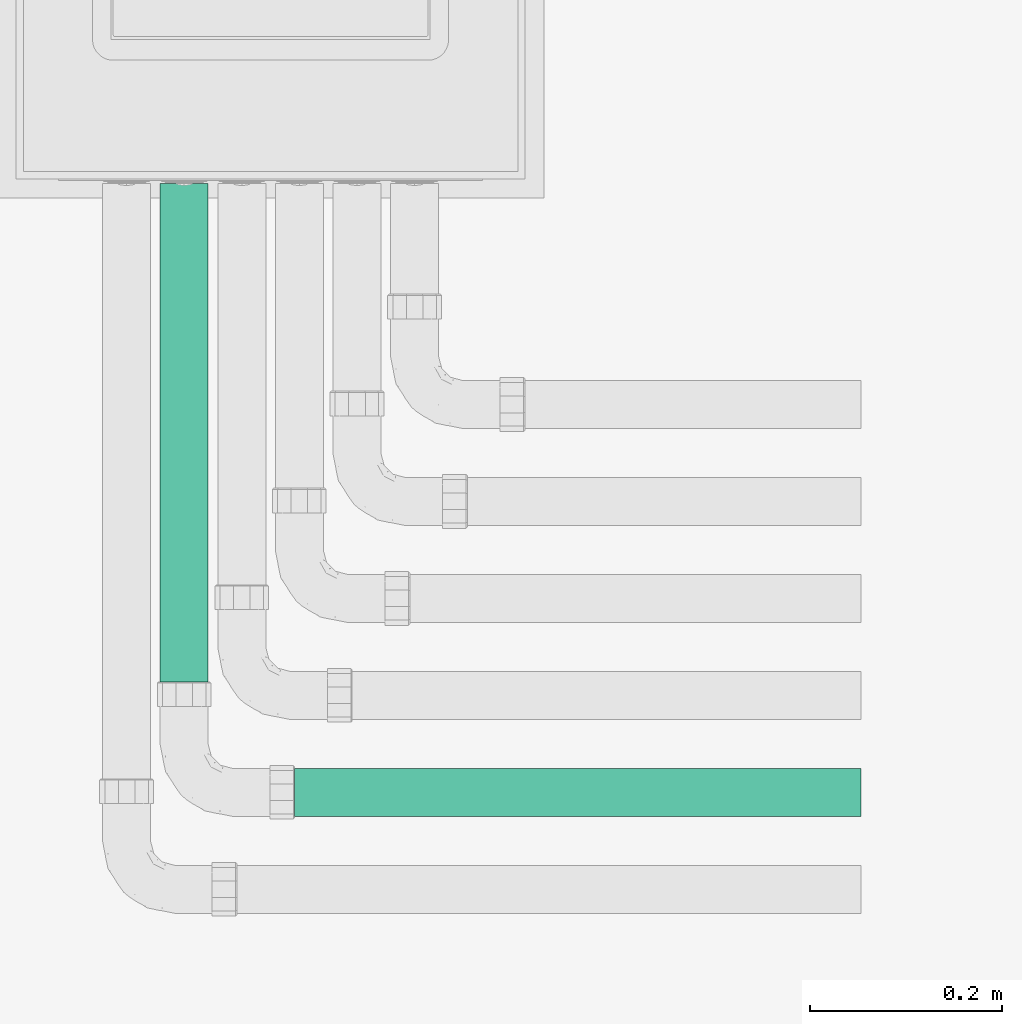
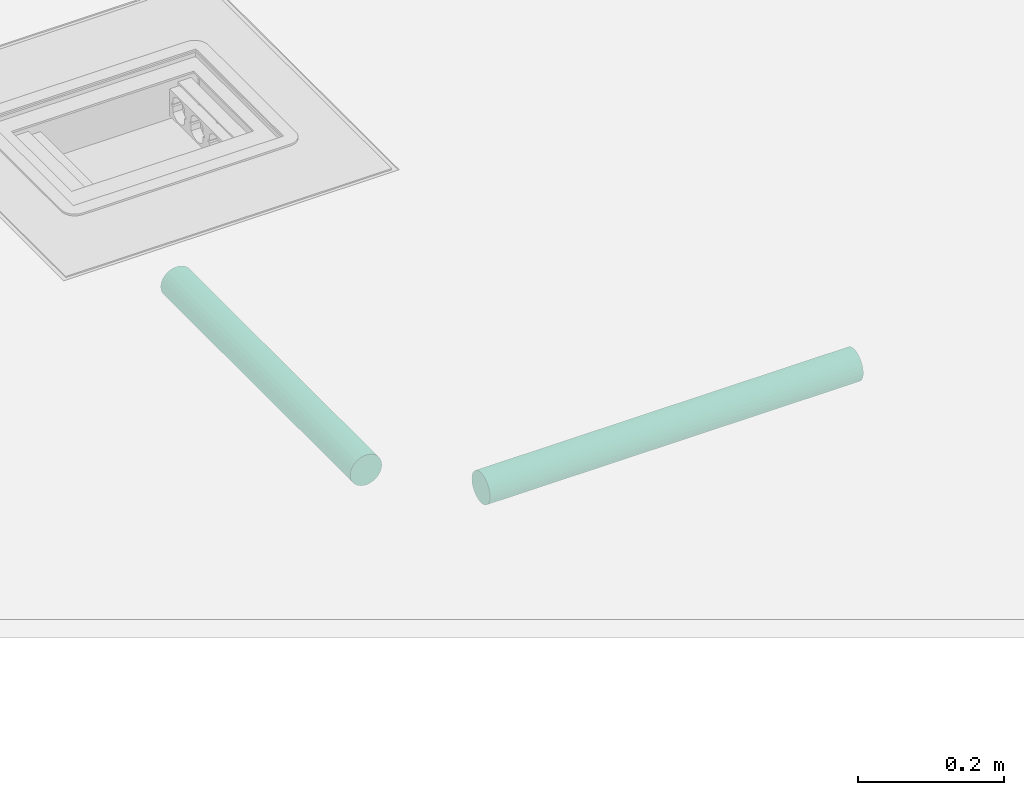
# One storey, part 8 of 87: 2 flow segments.
"""IFC2X3 building model written with IfcOpenShell, lengths in millimetres."""

from ifc_helpers import new_model, entity, si_unit, converted_unit, derived_unit, direction, frame, frame_2d, origin, place, context, subcontext, project, spatial, circle, extrude, type_object, element, save


model = new_model("IFC2X3")

# Units and contexts
model_context = context("Model", 3, precision=0.01, world=origin(), true_north=direction((6.12303176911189e-17, 1.0)))
body_context = subcontext(model_context, "Body", "Model", "MODEL_VIEW")
ifc_project = project(units=[si_unit("LENGTHUNIT", "METRE", prefix="MILLI"), si_unit("AREAUNIT", "SQUARE_METRE"), si_unit("VOLUMEUNIT", "CUBIC_METRE"), converted_unit("PLANEANGLEUNIT", "DEGREE", entity("IfcRatioMeasure", 0.0174532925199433), si_unit("PLANEANGLEUNIT", "RADIAN"), dimensions=[0, 0, 0, 0, 0, 0, 0]), si_unit("MASSUNIT", "GRAM", prefix="KILO"), derived_unit("MASSDENSITYUNIT", [(si_unit("MASSUNIT", "GRAM", prefix="KILO"), 1), (si_unit("LENGTHUNIT", "METRE"), -3)]), si_unit("TIMEUNIT", "SECOND"), si_unit("FREQUENCYUNIT", "HERTZ"), si_unit("THERMODYNAMICTEMPERATUREUNIT", "DEGREE_CELSIUS"), derived_unit("THERMALTRANSMITTANCEUNIT", [(si_unit("MASSUNIT", "GRAM", prefix="KILO"), 1), (si_unit("THERMODYNAMICTEMPERATUREUNIT", "KELVIN"), -1), (si_unit("TIMEUNIT", "SECOND"), -3)]), derived_unit("VOLUMETRICFLOWRATEUNIT", [(si_unit("LENGTHUNIT", "METRE"), 3), (si_unit("TIMEUNIT", "SECOND"), -1)]), si_unit("ELECTRICCURRENTUNIT", "AMPERE"), si_unit("ELECTRICVOLTAGEUNIT", "VOLT"), si_unit("POWERUNIT", "WATT"), si_unit("FORCEUNIT", "NEWTON", prefix="KILO"), si_unit("ILLUMINANCEUNIT", "LUX"), si_unit("LUMINOUSFLUXUNIT", "LUMEN"), si_unit("LUMINOUSINTENSITYUNIT", "CANDELA"), derived_unit("USERDEFINED", [(si_unit("MASSUNIT", "GRAM", prefix="KILO"), -1), (si_unit("LENGTHUNIT", "METRE"), -2), (si_unit("TIMEUNIT", "SECOND"), 3), (si_unit("LUMINOUSFLUXUNIT", "LUMEN"), 1)]), derived_unit("LINEARVELOCITYUNIT", [(si_unit("LENGTHUNIT", "METRE"), 1), (si_unit("TIMEUNIT", "SECOND"), -1)]), si_unit("PRESSUREUNIT", "PASCAL"), derived_unit("USERDEFINED", [(si_unit("LENGTHUNIT", "METRE"), -2), (si_unit("MASSUNIT", "GRAM", prefix="KILO"), 1), (si_unit("TIMEUNIT", "SECOND"), -2)])], contexts=[model_context])

# Site, building, storey
site_placement = place(None, origin())
site = spatial("IfcSite", under=ifc_project, at=site_placement, Name="Default", CompositionType="ELEMENT")
building_placement = place(site_placement, origin())
building = spatial("IfcBuilding", under=site, at=building_placement, Name="Наименование здания", CompositionType="ELEMENT")
storey_placement = place(building_placement, origin())
storey = spatial("IfcBuildingStorey", under=building, at=storey_placement, Name="Этаж 01", CompositionType="ELEMENT", Elevation=0.0)

# Flow segments
cable_carrier_segment_type = type_object("IfcCableCarrierSegmentType", Name="Короб с соединительными деталями:ADSK_Труба водогазопроводная_Стальная", PredefinedType="CONDUITSEGMENT")
flow_segment_1_placement = place(storey_placement, origin())
element("IfcFlowSegment", 1, at=flow_segment_1_placement, inside=storey, type_object=cable_carrier_segment_type, Name="Короб с соединительными деталями:ADSK_Труба водогазопроводная_Стальная", ObjectType="Короб с соединительными деталями:ADSK_Труба водогазопроводная_Стальная", context=body_context, shape_type="SweptSolid", body=[
    extrude(circle(Radius=25.0, at=frame_2d((-8.66293703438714e-12, 1.02364783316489e-12), x_axis=(1.0, 0.0))), frame((-16905.2403415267, 5935.36678153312, -59.5000000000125), z_axis=(0.0, 1.0, 0.0), x_axis=(-1.0, 0.0, 0.0)), (0.0, 0.0, 1.0), 519.00000000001),
])
flow_segment_2_placement = place(storey_placement, origin())
element("IfcFlowSegment", 2, at=flow_segment_2_placement, inside=storey, type_object=cable_carrier_segment_type, Name="Короб с соединительными деталями:ADSK_Труба водогазопроводная_Стальная", ObjectType="Короб с соединительными деталями:ADSK_Труба водогазопроводная_Стальная", context=body_context, shape_type="SweptSolid", body=[
    extrude(circle(Radius=25.0, at=frame_2d((0.0, -3.38395977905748e-14), x_axis=(1.0, 0.0))), frame((-16790.2403415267, 5820.36678153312, -59.5000000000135), z_axis=(1.0, 0.0, 0.0), x_axis=(0.0, -1.0, 0.0)), (0.0, 0.0, 1.0), 590.000000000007),
])

save(model, "model.ifc")
